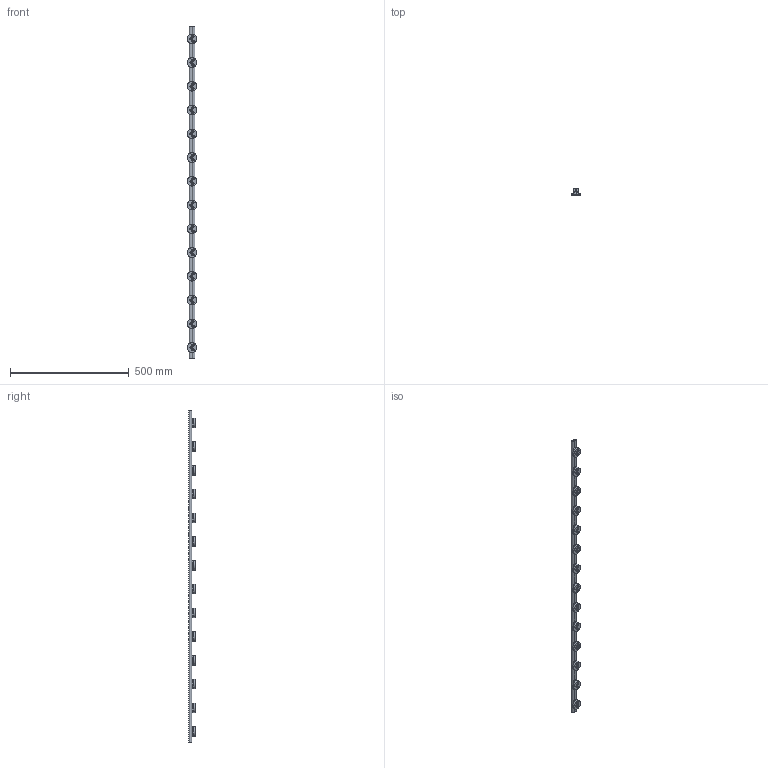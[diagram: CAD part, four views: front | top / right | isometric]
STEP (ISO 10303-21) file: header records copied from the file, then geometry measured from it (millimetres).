
FILE_DESCRIPTION (( 'STEP AP214' ), '1' );
FILE_NAME ('LF 1_-_LF 1 1398 mm lang.step', '2005-06-03T05:54:50', ( ' ' ), ( ' ' ), 'SwSTEP 2.0', 'SolidWorks 2004231', '' );
FILE_SCHEMA (( 'AUTOMOTIVE_DESIGN' ));
Length unit declared in the file: millimetre
Products named in the file (1): LF 1_-_LF 1  1398 mm lang
Bounding box: 40 x 27 x 1398 mm (x, y, z)
Volume: 507428.3 mm3; surface area: 176961.6 mm2
Topology: 1 solids, 1 shells, 1561 faces, 3865 edges, 2334 vertices
Faces by surface type: plane 732, cylinder 605, cone 140, torus 84
Entity records: 47681 total; most frequent: CARTESIAN_POINT 13147, ORIENTED_EDGE 7450, DIRECTION 6701, EDGE_CURVE 3725, AXIS2_PLACEMENT_3D 2380, VERTEX_POINT 2334, VECTOR 1941, LINE 1941
